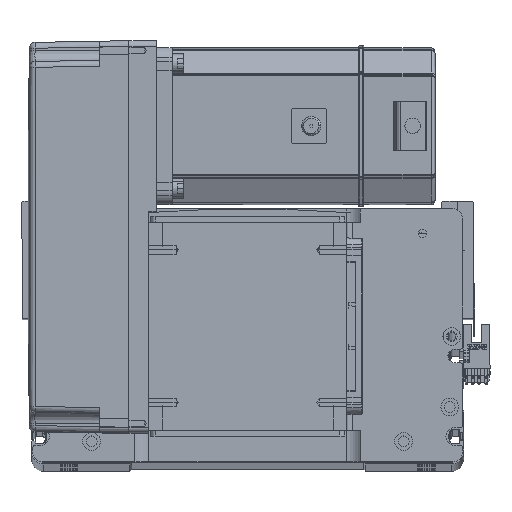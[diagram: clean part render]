
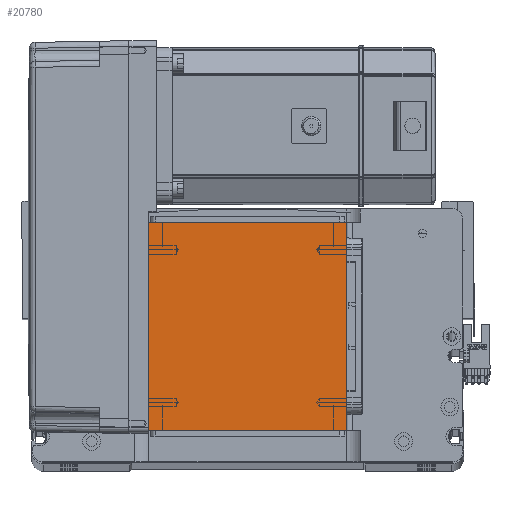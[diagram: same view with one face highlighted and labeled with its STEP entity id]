
A CAD part, top view. The second image highlights one B-rep face of the part: STEP entity #20780.
In plain terms, the highlighted planar face has unit normal (0, 0, 1).
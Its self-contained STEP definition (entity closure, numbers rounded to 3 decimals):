
#3521 = EDGE_CURVE ( 'NONE', #13271, #36526, #35607, .T. ) ;
#10731 = VECTOR ( 'NONE', #46088, 1000. ) ;
#11283 = CARTESIAN_POINT ( 'NONE',  ( -50.5, 122., 115. ) ) ;
#13038 = DIRECTION ( 'NONE',  ( 0., 0., 1. ) ) ;
#13271 = VERTEX_POINT ( 'NONE', #11283 ) ;
#13870 = LINE ( 'NONE', #20115, #23937 ) ;
#14394 = DIRECTION ( 'NONE',  ( 0., 1., 0. ) ) ;
#14871 = EDGE_CURVE ( 'NONE', #28320, #13271, #52331, .T. ) ;
#17001 = LINE ( 'NONE', #27161, #39800 ) ;
#18812 = EDGE_LOOP ( 'NONE', ( #33685, #49664, #34880, #41075 ) ) ;
#20115 = CARTESIAN_POINT ( 'NONE',  ( -50.5, 16., 115. ) ) ;
#20780 = ADVANCED_FACE ( 'NONE', ( #46029 ), #34248, .T. ) ;
#22147 = CARTESIAN_POINT ( 'NONE',  ( -50.5, 16., 115. ) ) ;
#23937 = VECTOR ( 'NONE', #53988, 1000. ) ;
#27161 = CARTESIAN_POINT ( 'NONE',  ( 50.5, 122., 115. ) ) ;
#28320 = VERTEX_POINT ( 'NONE', #31473 ) ;
#29230 = CARTESIAN_POINT ( 'NONE',  ( -50.5, 122., 115. ) ) ;
#31473 = CARTESIAN_POINT ( 'NONE',  ( 50.5, 122., 115. ) ) ;
#33344 = EDGE_CURVE ( 'NONE', #40236, #28320, #17001, .T. ) ;
#33685 = ORIENTED_EDGE ( 'NONE', *, *, #3521, .T. ) ;
#34248 = PLANE ( 'NONE',  #46918 ) ;
#34274 = VECTOR ( 'NONE', #54710, 1000. ) ;
#34436 = DIRECTION ( 'NONE',  ( 1., 0., 0. ) ) ;
#34880 = ORIENTED_EDGE ( 'NONE', *, *, #33344, .T. ) ;
#35607 = LINE ( 'NONE', #29230, #34274 ) ;
#36526 = VERTEX_POINT ( 'NONE', #22147 ) ;
#37289 = CARTESIAN_POINT ( 'NONE',  ( -50.5, 122., 115. ) ) ;
#37794 = EDGE_CURVE ( 'NONE', #36526, #40236, #13870, .T. ) ;
#39800 = VECTOR ( 'NONE', #14394, 1000. ) ;
#40236 = VERTEX_POINT ( 'NONE', #45557 ) ;
#41075 = ORIENTED_EDGE ( 'NONE', *, *, #14871, .T. ) ;
#42853 = CARTESIAN_POINT ( 'NONE',  ( 0., 0., 115. ) ) ;
#45557 = CARTESIAN_POINT ( 'NONE',  ( 50.5, 16., 115. ) ) ;
#46029 = FACE_OUTER_BOUND ( 'NONE', #18812, .T. ) ;
#46088 = DIRECTION ( 'NONE',  ( -1., 0., 0. ) ) ;
#46918 = AXIS2_PLACEMENT_3D ( 'NONE', #42853, #13038, #34436 ) ;
#49664 = ORIENTED_EDGE ( 'NONE', *, *, #37794, .T. ) ;
#52331 = LINE ( 'NONE', #37289, #10731 ) ;
#53988 = DIRECTION ( 'NONE',  ( 1., 0., 0. ) ) ;
#54710 = DIRECTION ( 'NONE',  ( 0., -1., 0. ) ) ;
